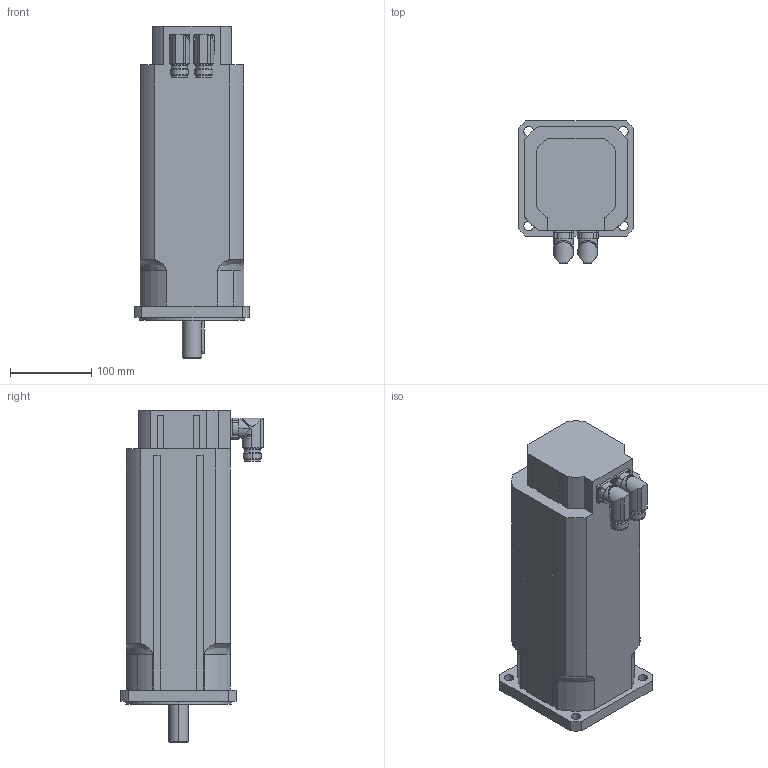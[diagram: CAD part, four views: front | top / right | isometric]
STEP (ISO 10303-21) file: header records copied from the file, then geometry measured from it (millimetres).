
FILE_DESCRIPTION(('STEP AP203'),'2;1');
FILE_NAME('MT5-2200_BX.stp','2006-08-28T20:51:27',(''),(''),'2005.2.102','THINKDESIGN','');
FILE_SCHEMA(('CONFIG_CONTROL_DESIGN'));
Length unit declared in the file: millimetre
Bounding box: 142 x 175.5 x 409 mm (x, y, z)
Volume: 5476617.3 mm3; surface area: 238220.7 mm2
Topology: 3 solids, 3 shells, 255 faces, 679 edges, 439 vertices
Faces by surface type: cylinder 110, plane 107, bspline 38
Full cylindrical faces by diameter (mm): 20 x2
Entity records: 9316 total; most frequent: CARTESIAN_POINT 2863, ORIENTED_EDGE 1354, DIRECTION 1327, EDGE_CURVE 677, AXIS2_PLACEMENT_3D 493, VERTEX_POINT 439, VECTOR 341, LINE 341
